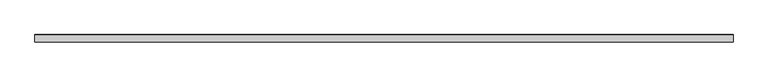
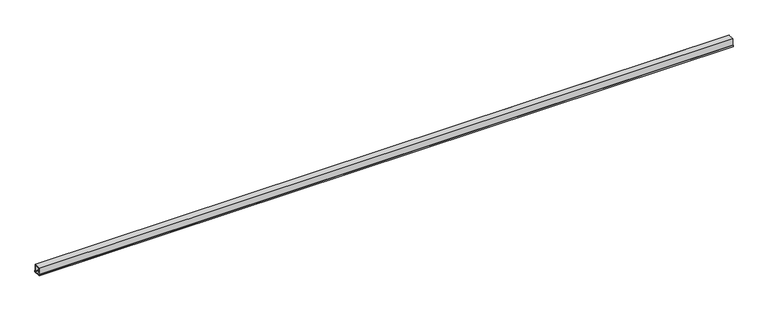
"""IFC4 building model written with IfcOpenShell, lengths in millimetres: light fixture geometry, 20207_レースウェイ : 45型×w40."""

from ifc_helpers import new_model, si_unit, frame, origin, place, context, project, spatial, polyline, outline, extrude, source, transform, mapped, element, save


def light_fixture_8c0df78b(model_context):
    return source(origin(), model_context, "Body", "SweptSolid", [
        extrude(outline(polyline([(-21.7, 8.2), (-20.5, 8.2), (-20.5, 1.2), (20.5, 1.2), (20.5, 8.2), (21.7, 8.2), (21.7, 0.0), (-21.7, 0.0), (-21.7, 8.2)])), frame((-2033.5120693, 0.0, 0.0), z_axis=(1.0, 0.0, 0.0), x_axis=(0.0, 1.0, 0.0)), (0.0, 0.0, 1.0), 4067.0241387),
        extrude(outline(polyline([(-20.0, 46.2), (20.0, 46.2), (20.0, 1.2), (18.4, 1.2), (10.0, 11.2), (11.2251278, 12.2291073), (18.4, 3.6875928), (18.4, 44.6), (-18.4, 44.6), (-18.4, 3.6875928), (-11.2251278, 12.2291073), (-10.0, 11.2), (-18.4, 1.2), (-20.0, 1.2), (-20.0, 46.2)])), frame((-2033.5120693, 0.0, 0.0), z_axis=(1.0, 0.0, 0.0), x_axis=(0.0, 1.0, 0.0)), (0.0, 0.0, 1.0), 4067.0241387),
    ])


if __name__ == "__main__":
    model = new_model("IFC4")
    model_context = context("Model", 3, world=origin())
    ifc_project = project(units=[si_unit("LENGTHUNIT", "METRE", prefix="MILLI")], contexts=[model_context])
    site = spatial("IfcSite", under=ifc_project)
    building = spatial("IfcBuilding", under=site)
    placement = place(None, origin())
    light_fixture_shape = light_fixture_8c0df78b(model_context)
    element("IfcLightFixture", 1, ObjectType="20207_レースウェイ : 45型×w40", at=placement, inside=building, context=model_context, shape_type="MappedRepresentation", body=[
        mapped(light_fixture_shape, transform((0.0, 0.0, 0.0), x_axis=(1.0, 0.0, 0.0), y_axis=(0.0, 1.0, 0.0), z_axis=(0.0, 0.0, 1.0))),
    ])
    save(model, "model.ifc")
